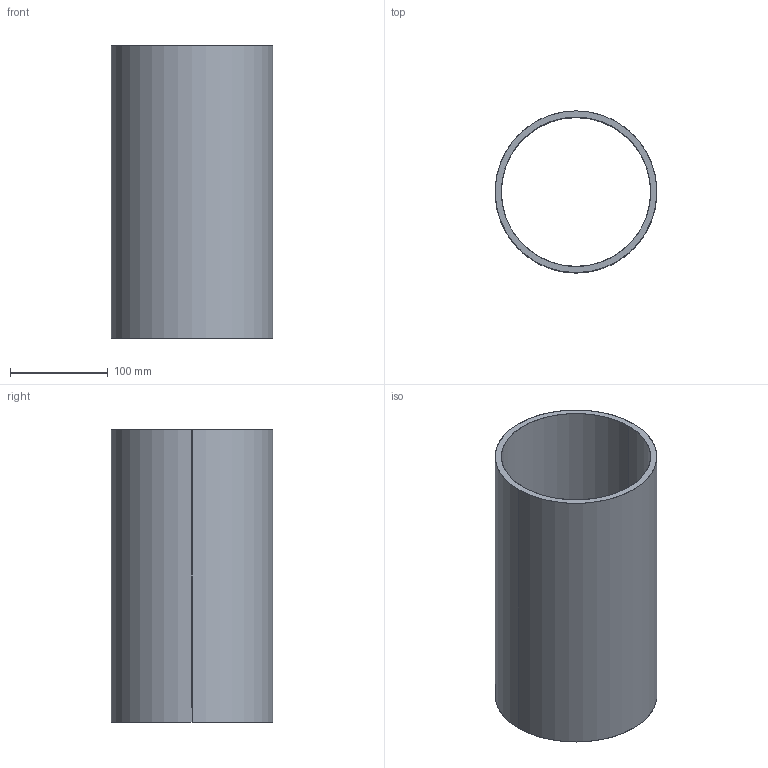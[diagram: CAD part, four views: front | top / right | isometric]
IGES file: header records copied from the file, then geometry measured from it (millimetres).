
Start section: SolidWorks IGES file using analytic representation for surfaces
Global section: file name: C:\Users\Jonathan\Dropbox\BR-Engineering\Models\WTE6-X1A-PUBLIC\WTE6-P-TUBE-R1.IGS; native system: SolidWorks 2014; preprocessor: SolidWorks 2014; author: Jonathan; date: 170111.142839; units: inch
Bounding box: 165.1 x 165.1 x 298.45 mm (x, y, z)
Surface area: 304024.5 mm2 (no closed solid volume)
Topology: 0 solids, 0 shells, 6 faces, 272 edges, 272 vertices
Faces by surface type: revolution 4, bspline 2
